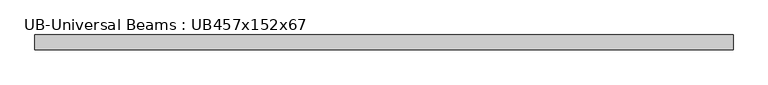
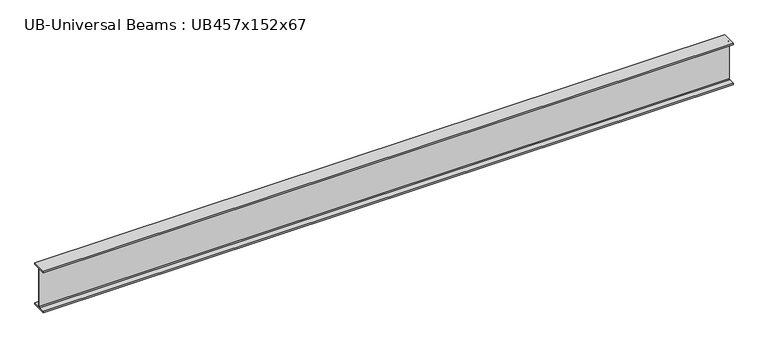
"""IFC4 building model written with IfcOpenShell, lengths in millimetres: beam geometry, UB-Universal Beams : UB457x152x67."""

from ifc_helpers import new_model, si_unit, point, frame, frame_2d, origin, place, context, project, spatial, polyline, circle_curve, trimmed, segment, composite_curve, outline, extrude, source, transform, mapped, element, save


def ub_universal_beams_ub457x152x67_e84ce350(model_context):
    return source(origin(), model_context, "Body", "SweptSolid", [
        extrude(outline(composite_curve([segment(polyline([(76.9, -214.0), (76.9, -229.0), (-76.9, -229.0), (-76.9, -214.0), (-14.7, -214.0)]), True, "CONTINUOUS"), segment(trimmed(circle_curve(frame_2d((-14.7, -203.8)), 10.2), [point((-14.7, -214.0))], [point((-4.5, -203.8))], True, "CARTESIAN"), True, "CONTINUOUS"), segment(polyline([(-4.5, -203.8), (-4.5, 203.8)]), True, "CONTINUOUS"), segment(trimmed(circle_curve(frame_2d((-14.7, 203.8)), 10.2), [point((-4.5, 203.8))], [point((-14.7, 214.0))], True, "CARTESIAN"), True, "CONTINUOUS"), segment(polyline([(-14.7, 214.0), (-76.9, 214.0), (-76.9, 229.0), (76.9, 229.0), (76.9, 214.0), (14.7, 214.0)]), True, "CONTINUOUS"), segment(trimmed(circle_curve(frame_2d((14.7, 203.8)), 10.2), [point((14.7, 214.0))], [point((4.5, 203.8))], True, "CARTESIAN"), True, "CONTINUOUS"), segment(polyline([(4.5, 203.8), (4.5, -203.8)]), True, "CONTINUOUS"), segment(trimmed(circle_curve(frame_2d((14.7, -203.8)), 10.2), [point((4.5, -203.8))], [point((14.7, -214.0))], True, "CARTESIAN"), True, "CONTINUOUS"), segment(polyline([(14.7, -214.0), (76.9, -214.0)]), True, "CONTINUOUS")], self_intersect=False)), frame((-3583.6, 0.0, 0.0), z_axis=(1.0, 0.0, 0.0), x_axis=(0.0, 1.0, 0.0)), (0.0, 0.0, 1.0), 7213.9),
    ])


if __name__ == "__main__":
    model = new_model("IFC4")
    model_context = context("Model", 3, world=origin())
    ifc_project = project(units=[si_unit("LENGTHUNIT", "METRE", prefix="MILLI")], contexts=[model_context])
    site = spatial("IfcSite", under=ifc_project)
    building = spatial("IfcBuilding", under=site)
    placement = place(None, origin())
    ub_universal_beams_ub457x152x67_shape = ub_universal_beams_ub457x152x67_e84ce350(model_context)
    element("IfcBeam", 1, ObjectType="UB-Universal Beams : UB457x152x67", at=placement, inside=building, context=model_context, shape_type="MappedRepresentation", body=[
        mapped(ub_universal_beams_ub457x152x67_shape, transform((0.0, 0.0, 0.0), x_axis=(1.0, 0.0, 0.0), y_axis=(0.0, 1.0, 0.0), z_axis=(0.0, 0.0, 1.0))),
    ])
    save(model, "model.ifc")
